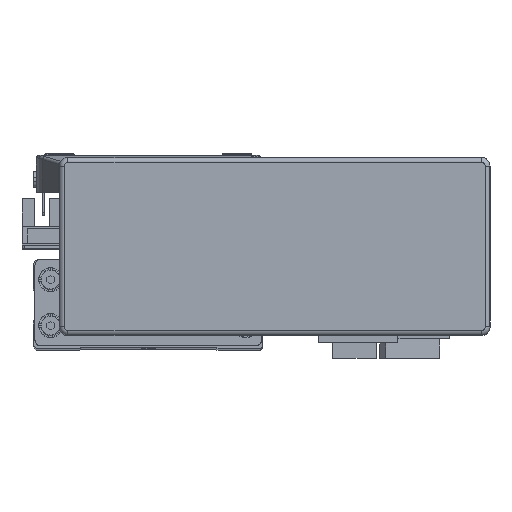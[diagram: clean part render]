
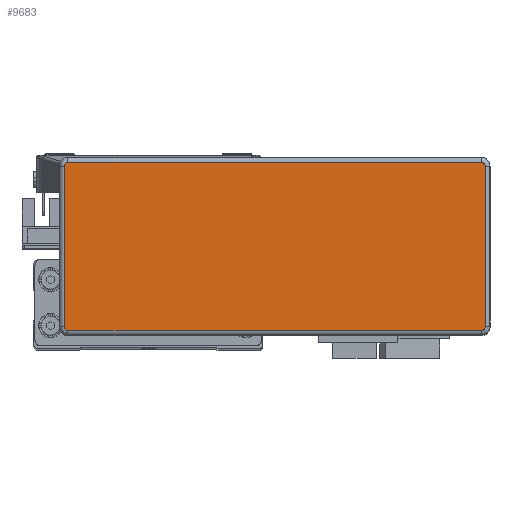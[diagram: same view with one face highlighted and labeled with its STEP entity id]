
A CAD part, top view. The second image highlights one B-rep face of the part: STEP entity #9683.
In plain terms, the highlighted planar face has unit normal (0, 0, 1) as drawn and (0, 0, -1) by its records, which use the part's own axes.
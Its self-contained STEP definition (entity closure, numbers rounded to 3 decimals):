
#798 = CARTESIAN_POINT ( 'NONE',  ( 71.995, -29.295, -32.2 ) ) ;
#800 = CARTESIAN_POINT ( 'NONE',  ( -73.295, 27.995, -32.2 ) ) ;
#867 = CARTESIAN_POINT ( 'NONE',  ( 73.295, 27.995, -32.2 ) ) ;
#871 = CARTESIAN_POINT ( 'NONE',  ( -71.995, -29.295, -32.2 ) ) ;
#882 = CARTESIAN_POINT ( 'NONE',  ( 73.295, -27.995, -32.2 ) ) ;
#897 = CARTESIAN_POINT ( 'NONE',  ( 71.995, 29.295, -32.2 ) ) ;
#901 = CARTESIAN_POINT ( 'NONE',  ( -71.995, 29.295, -32.2 ) ) ;
#902 = CARTESIAN_POINT ( 'NONE',  ( -73.295, -27.995, -32.2 ) ) ;
#8531 = AXIS2_PLACEMENT_3D ( 'NONE', #35335, #35324, #35349 ) ;
#8538 = AXIS2_PLACEMENT_3D ( 'NONE', #35346, #35328, #35341 ) ;
#8544 = AXIS2_PLACEMENT_3D ( 'NONE', #35484, #35513, #35512 ) ;
#8566 = AXIS2_PLACEMENT_3D ( 'NONE', #35424, #35413, #35414 ) ;
#9683 = ADVANCED_FACE ( 'NONE', ( #10009 ), #40001, .F. ) ;
#10009 = FACE_OUTER_BOUND ( 'NONE', #33784, .T. ) ;
#20877 = CIRCLE ( 'NONE', #8531, 1.3 ) ;
#26357 = VERTEX_POINT ( 'NONE', #800 ) ;
#26359 = VERTEX_POINT ( 'NONE', #798 ) ;
#26372 = VERTEX_POINT ( 'NONE', #867 ) ;
#26373 = VERTEX_POINT ( 'NONE', #902 ) ;
#26374 = VERTEX_POINT ( 'NONE', #882 ) ;
#26390 = VERTEX_POINT ( 'NONE', #901 ) ;
#26394 = VERTEX_POINT ( 'NONE', #897 ) ;
#26400 = VERTEX_POINT ( 'NONE', #871 ) ;
#28561 = AXIS2_PLACEMENT_3D ( 'NONE', #39985, #39959, #39970 ) ;
#31674 = EDGE_CURVE ( 'NONE', #26374, #26359, #20877, .T. ) ;
#31676 = EDGE_CURVE ( 'NONE', #26372, #26374, #37328, .T. ) ;
#31678 = EDGE_CURVE ( 'NONE', #26394, #26372, #37311, .T. ) ;
#31694 = EDGE_CURVE ( 'NONE', #26359, #26400, #37318, .T. ) ;
#31712 = EDGE_CURVE ( 'NONE', #26390, #26394, #37343, .T. ) ;
#31714 = EDGE_CURVE ( 'NONE', #26400, #26373, #37404, .T. ) ;
#31734 = EDGE_CURVE ( 'NONE', #26357, #26390, #37399, .T. ) ;
#31760 = EDGE_CURVE ( 'NONE', #26373, #26357, #37469, .T. ) ;
#32903 = ORIENTED_EDGE ( 'NONE', *, *, #31678, .T. ) ;
#32920 = ORIENTED_EDGE ( 'NONE', *, *, #31712, .T. ) ;
#32926 = ORIENTED_EDGE ( 'NONE', *, *, #31676, .T. ) ;
#32943 = ORIENTED_EDGE ( 'NONE', *, *, #31694, .T. ) ;
#32951 = ORIENTED_EDGE ( 'NONE', *, *, #31760, .T. ) ;
#32953 = ORIENTED_EDGE ( 'NONE', *, *, #31734, .T. ) ;
#32966 = ORIENTED_EDGE ( 'NONE', *, *, #31674, .T. ) ;
#32969 = ORIENTED_EDGE ( 'NONE', *, *, #31714, .T. ) ;
#33784 = EDGE_LOOP ( 'NONE', ( #32926, #32966, #32943, #32969, #32951, #32953, #32920, #32903 ) ) ;
#35319 = DIRECTION ( 'NONE',  ( 0., -1., 0. ) ) ;
#35324 = DIRECTION ( 'NONE',  ( 0., 0., -1. ) ) ;
#35328 = DIRECTION ( 'NONE',  ( 0., 0., -1. ) ) ;
#35335 = CARTESIAN_POINT ( 'NONE',  ( 71.995, -27.995, -32.2 ) ) ;
#35341 = DIRECTION ( 'NONE',  ( 1., 0., 0. ) ) ;
#35346 = CARTESIAN_POINT ( 'NONE',  ( 71.995, 27.995, -32.2 ) ) ;
#35349 = DIRECTION ( 'NONE',  ( 1., 0., 0. ) ) ;
#35350 = CARTESIAN_POINT ( 'NONE',  ( 73.295, -27.995, -32.2 ) ) ;
#35367 = CARTESIAN_POINT ( 'NONE',  ( 71.995, -29.295, -32.2 ) ) ;
#35395 = DIRECTION ( 'NONE',  ( -1., 0., 0. ) ) ;
#35413 = DIRECTION ( 'NONE',  ( 0., 0., -1. ) ) ;
#35414 = DIRECTION ( 'NONE',  ( 1., 0., 0. ) ) ;
#35424 = CARTESIAN_POINT ( 'NONE',  ( -71.995, -27.995, -32.2 ) ) ;
#35437 = CARTESIAN_POINT ( 'NONE',  ( 71.995, 29.295, -32.2 ) ) ;
#35440 = DIRECTION ( 'NONE',  ( 1., 0., 0. ) ) ;
#35484 = CARTESIAN_POINT ( 'NONE',  ( -71.995, 27.995, -32.2 ) ) ;
#35512 = DIRECTION ( 'NONE',  ( 1., 0., 0. ) ) ;
#35513 = DIRECTION ( 'NONE',  ( 0., 0., -1. ) ) ;
#35548 = CARTESIAN_POINT ( 'NONE',  ( -73.295, -27.995, -32.2 ) ) ;
#35554 = DIRECTION ( 'NONE',  ( 0., 1., 0. ) ) ;
#37291 = VECTOR ( 'NONE', #35319, 1000. ) ;
#37311 = CIRCLE ( 'NONE', #8538, 1.3 ) ;
#37318 = LINE ( 'NONE', #35367, #37331 ) ;
#37328 = LINE ( 'NONE', #35350, #37291 ) ;
#37331 = VECTOR ( 'NONE', #35395, 1000. ) ;
#37343 = LINE ( 'NONE', #35437, #37384 ) ;
#37384 = VECTOR ( 'NONE', #35440, 1000. ) ;
#37399 = CIRCLE ( 'NONE', #8544, 1.3 ) ;
#37404 = CIRCLE ( 'NONE', #8566, 1.3 ) ;
#37444 = VECTOR ( 'NONE', #35554, 1000. ) ;
#37469 = LINE ( 'NONE', #35548, #37444 ) ;
#39959 = DIRECTION ( 'NONE',  ( 0., 0., 1. ) ) ;
#39970 = DIRECTION ( 'NONE',  ( 1., 0., 0. ) ) ;
#39985 = CARTESIAN_POINT ( 'NONE',  ( 71.995, -27.995, -32.2 ) ) ;
#40001 = PLANE ( 'NONE',  #28561 ) ;
